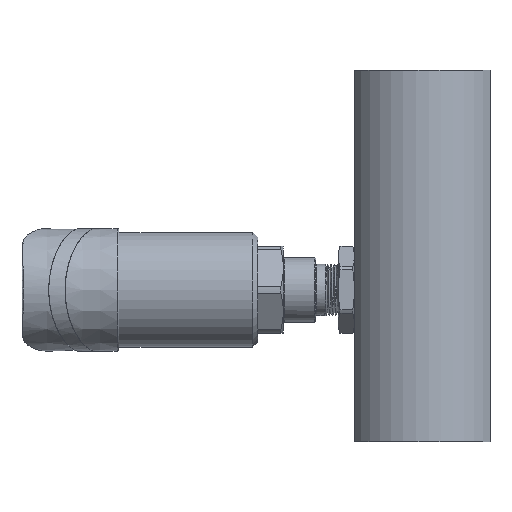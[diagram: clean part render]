
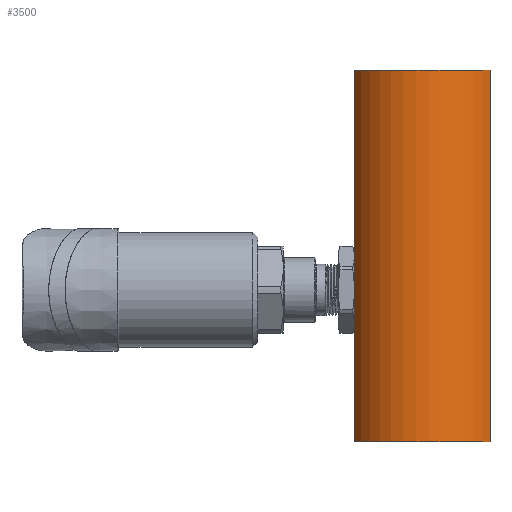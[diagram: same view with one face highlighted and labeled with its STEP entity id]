
A CAD part, left-side view. The second image highlights one B-rep face of the part: STEP entity #3500.
In plain terms, the highlighted cylindrical face has radius 24 mm (diameter 48 mm), a partial arc.
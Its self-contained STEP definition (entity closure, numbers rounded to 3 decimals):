
#2421=CYLINDRICAL_SURFACE('',#15252,24.);
#2774=CIRCLE('',#15250,24.);
#2775=CIRCLE('',#15251,24.);
#3500=ADVANCED_FACE('',(#4414),#2421,.T.);
#4414=FACE_OUTER_BOUND('',#5256,.T.);
#5256=EDGE_LOOP('',(#9548,#9549,#9550,#9551));
#9548=ORIENTED_EDGE('',*,*,#12564,.T.);
#9549=ORIENTED_EDGE('',*,*,#12565,.F.);
#9550=ORIENTED_EDGE('',*,*,#12566,.T.);
#9551=ORIENTED_EDGE('',*,*,#12567,.F.);
#10767=VERTEX_POINT('',#35067);
#10768=VERTEX_POINT('',#35068);
#10769=VERTEX_POINT('',#35070);
#10770=VERTEX_POINT('',#35072);
#12564=EDGE_CURVE('',#10767,#10768,#2774,.T.);
#12565=EDGE_CURVE('',#10769,#10768,#13389,.T.);
#12566=EDGE_CURVE('',#10769,#10770,#2775,.T.);
#12567=EDGE_CURVE('',#10767,#10770,#13390,.T.);
#13389=LINE('',#35069,#14350);
#13390=LINE('',#35073,#14351);
#14350=VECTOR('',#18001,1.);
#14351=VECTOR('',#18004,1.);
#15250=AXIS2_PLACEMENT_3D('',#35066,#17999,#18000);
#15251=AXIS2_PLACEMENT_3D('',#35071,#18002,#18003);
#15252=AXIS2_PLACEMENT_3D('',#35074,#18005,#18006);
#17999=DIRECTION('',(0.,0.,1.));
#18000=DIRECTION('',(1.,0.,0.));
#18001=DIRECTION('',(0.,0.,-1.));
#18002=DIRECTION('',(0.,0.,-1.));
#18003=DIRECTION('',(-1.,0.,0.));
#18004=DIRECTION('',(0.,0.,1.));
#18005=DIRECTION('',(0.,0.,-1.));
#18006=DIRECTION('',(-1.,0.,0.));
#35066=CARTESIAN_POINT('',(-0.016,-5.5,96.));
#35067=CARTESIAN_POINT('',(-11.635,15.5,96.));
#35068=CARTESIAN_POINT('',(-11.635,-26.5,96.));
#35069=CARTESIAN_POINT('',(-11.635,-26.5,235.65));
#35070=CARTESIAN_POINT('',(-11.635,-26.5,211.));
#35071=CARTESIAN_POINT('',(-0.016,-5.5,211.));
#35072=CARTESIAN_POINT('',(-11.635,15.5,211.));
#35073=CARTESIAN_POINT('',(-11.635,15.5,235.65));
#35074=CARTESIAN_POINT('',(-0.016,-5.5,235.65));
